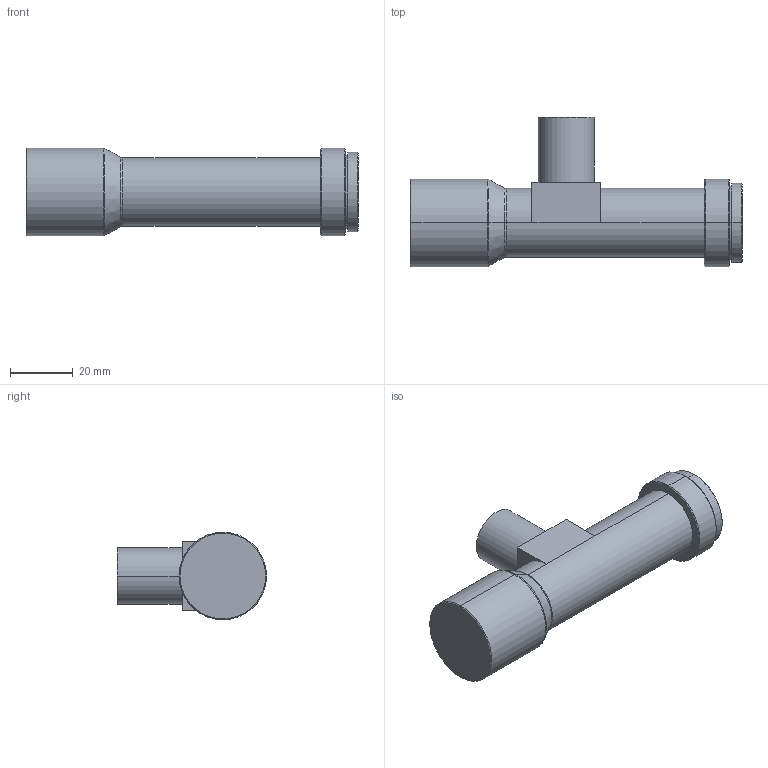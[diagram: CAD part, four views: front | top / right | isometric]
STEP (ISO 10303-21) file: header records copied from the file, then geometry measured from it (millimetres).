
FILE_DESCRIPTION (( 'STEP AP203' ), '1' );
FILE_NAME ('WWH06-150CT.STEP', '2022-11-30T05:37:35', ( '' ), ( '' ), 'SwSTEP 2.0', 'SolidWorks 2017', '' );
FILE_SCHEMA (( 'CONFIG_CONTROL_DESIGN' ));
Length unit declared in the file: millimetre
Products named in the file (1): WWH06-150CT
Bounding box: 106.2 x 47.7 x 28 mm (x, y, z)
Volume: 55016.3 mm3; surface area: 11942.2 mm2
Topology: 1 solids, 1 shells, 44 faces, 88 edges, 52 vertices
Faces by surface type: cylinder 17, plane 13, cone 10, torus 4
Entity records: 1219 total; most frequent: DIRECTION 228, CARTESIAN_POINT 185, ORIENTED_EDGE 176, AXIS2_PLACEMENT_3D 95, EDGE_CURVE 88, VERTEX_POINT 52, CIRCLE 50, EDGE_LOOP 50
